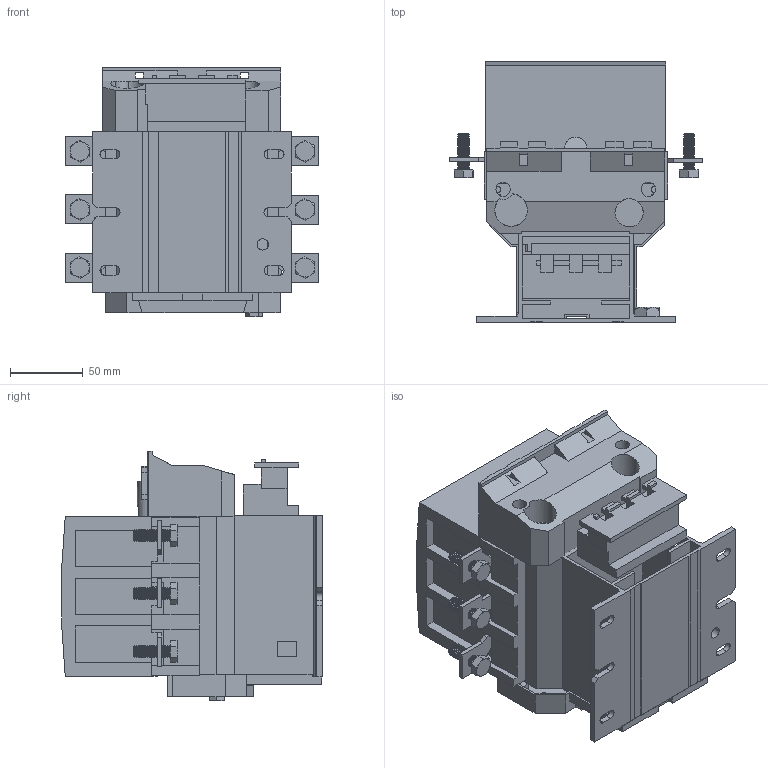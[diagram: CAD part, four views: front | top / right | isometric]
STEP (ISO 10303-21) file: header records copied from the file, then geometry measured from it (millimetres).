
FILE_DESCRIPTION (( 'STEP AP203' ), '1' );
FILE_NAME ('6100.STEP', '2013-11-27T07:16:27', ( 'admin' ), ( '' ), 'SwSTEP 2.0', 'SolidWorks 2007', '' );
FILE_SCHEMA (( 'CONFIG_CONTROL_DESIGN' ));
Length unit declared in the file: millimetre
Products named in the file (11): ïåðåä íèç_Ïî óìîë÷àíèþ; Êë_Ïî óìîë÷àíèþ; Ë ï Êë_Ïî óìîë÷àíèþ; Îñíîâà_Ïî óìîë÷àíèþ; 6100; ñåðäöåâèíà_Ïî óìîë÷àíèþ; Êðûøêà_Ïî óìîë÷àíèþ; Ïåðåä_Ïî óìîë÷àíèþ; Çàäíÿÿ êðû_Ïî óìîë÷àíèþ; 令腧 󋔋0 梦岩 7805; øåñòèãðàíêà_Ïî óìîë÷àíèþ
Assembly tree (19 placements, depth 2):
  6100
    Êë_Ïî óìîë÷àíèþ  x2
    Çàäíÿÿ êðû_Ïî óìîë÷àíèþ
    ñåðäöåâèíà_Ïî óìîë÷àíèþ
    øåñòèãðàíêà_Ïî óìîë÷àíèþ
    Îñíîâà_Ïî óìîë÷àíèþ
    令腧 󋔋0 梦岩 7805  x6
    Ë ï Êë_Ïî óìîë÷àíèþ  x4
    Êðûøêà_Ïî óìîë÷àíèþ
    Ïåðåä_Ïî óìîë÷àíèþ
    ïåðåä íèç_Ïî óìîë÷àíèþ
Bounding box: 174 x 179.54 x 171.61 mm (x, y, z)
Volume: 1944715.4 mm3; surface area: 336166.8 mm2
Topology: 19 solids, 19 shells, 1446 faces, 3848 edges, 2456 vertices
Faces by surface type: plane 591, cone 504, cylinder 336, torus 15
Entity records: 24481 total; most frequent: CARTESIAN_POINT 4410, ORIENTED_EDGE 3958, DIRECTION 3806, EDGE_CURVE 1979, VECTOR 1562, LINE 1562, VERTEX_POINT 1290, AXIS2_PLACEMENT_3D 1122
